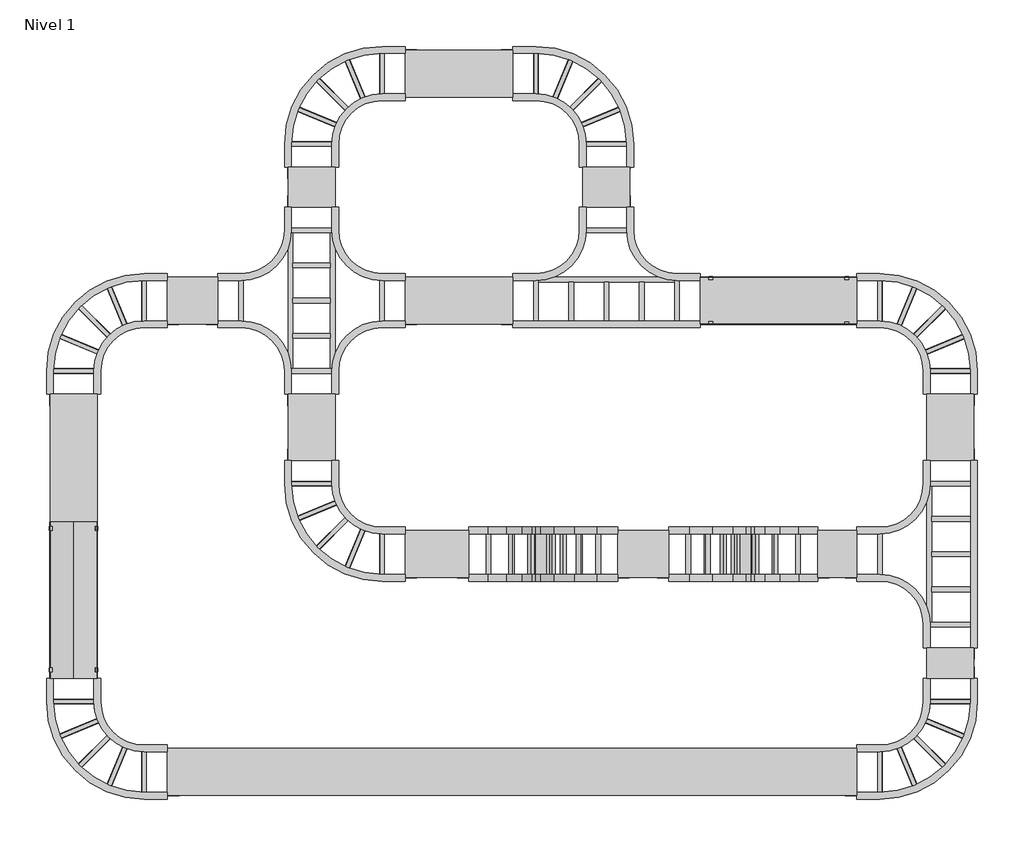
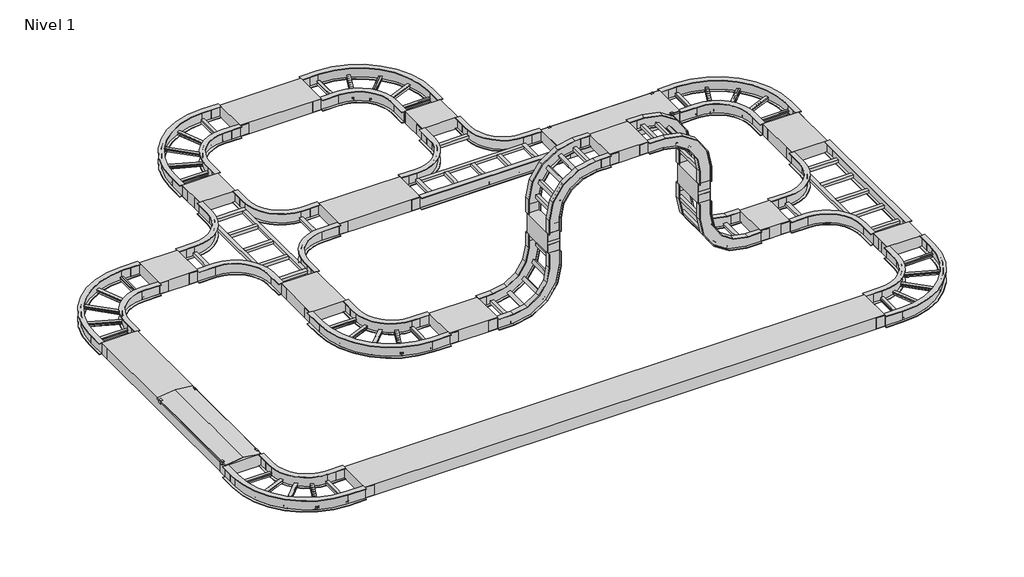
# One storey: 74 proxies, 16 cable carrier segments, 14 cable carrier fittings.
"""IFC4 building model written with IfcOpenShell, lengths in millimetres."""

from ifc_helpers import new_model, si_unit, frame, origin, place, context, project, spatial, polyline, outline, extrude, transform, mapped, element, save
from components import generic_models_fe180117, generic_models_acc7646d, generic_models_1d4e2ffc, generic_models_0f8e1dab, generic_models_6a893dab, cable_carrier_fitting_dc6e4f22, cable_carrier_fitting_e62e78b4, cable_carrier_fitting_8666d8a0, cable_carrier_fitting_13366d08, cable_carrier_fitting_838a4757

model = new_model("IFC4")

# Units and contexts
model_context = context("Model", 3, world=origin())
ifc_project = project(units=[si_unit("LENGTHUNIT", "METRE", prefix="MILLI")], contexts=[model_context])

# Site, building, storey
site = spatial("IfcSite", under=ifc_project)
building = spatial("IfcBuilding", under=site)
storey = spatial("IfcBuildingStorey", under=building, Name="Nivel 1", Elevation=0.0)

# Proxies
placement = place(None, origin())
generic_models_shape = generic_models_fe180117(model_context)
element("IfcBuildingElementProxy", 1, Name="Cable_Ladder_Cover_T2AI_Basortrav : Basortrav T2AI 12 3M", ObjectType="Cable_Ladder_Cover_T2AI_Basortrav : Basortrav T2AI 12 3M", at=placement, inside=storey, context=model_context, shape_type="MappedRepresentation", body=[
    mapped(generic_models_shape, transform((-12044.2216592, -1095.3763721, -147.8359375), x_axis=(-1.0, 0.0, 0.0), y_axis=(0.0, -1.0, 0.0), z_axis=(0.0, 0.0, 1.0))),
])
generic_models_2_shape = generic_models_acc7646d(model_context)
element("IfcBuildingElementProxy", 2, Name="Cable_Ladder_Cover_TI-_Basortrav : Basortrav TI 12 3M", ObjectType="Cable_Ladder_Cover_TI-_Basortrav : Basortrav TI 12 3M", at=placement, inside=storey, context=model_context, shape_type="MappedRepresentation", body=[
    mapped(generic_models_2_shape, transform((-6965.0033308, 340.31893, -147.8359375), x_axis=(0.0, 1.0, 0.0), y_axis=(-1.0, 0.0, 0.0), z_axis=(0.0, 0.0, 1.0))),
])
generic_models_3_shape = generic_models_1d4e2ffc(model_context)
element("IfcBuildingElementProxy", 3, Name="Cable_Ladder_CoverRetainer_PTI_Basortrav : Basortrav PTI", ObjectType="Cable_Ladder_CoverRetainer_PTI_Basortrav : Basortrav PTI", at=placement, inside=storey, context=model_context, shape_type="MappedRepresentation", body=[
    mapped(generic_models_3_shape, transform((-7042.6049566, 184.41893, -146.3359375), x_axis=(0.0, 1.0, 0.0), y_axis=(-1.0, 0.0, 0.0), z_axis=(0.0, 0.0, 1.0))),
])
element("IfcBuildingElementProxy", 4, Name="Cable_Ladder_CoverRetainer_PTI_Basortrav : Basortrav PTI", ObjectType="Cable_Ladder_CoverRetainer_PTI_Basortrav : Basortrav PTI", at=placement, inside=storey, context=model_context, shape_type="MappedRepresentation", body=[
    mapped(generic_models_3_shape, transform((-7017.6049566, 496.21893, -146.3359375), x_axis=(0.0, -1.0, 0.0), y_axis=(1.0, 0.0, 0.0), z_axis=(0.0, 0.0, 1.0))),
])
element("IfcBuildingElementProxy", 5, Name="Cable_Ladder_CoverRetainer_PTI_Basortrav : Basortrav PTI", ObjectType="Cable_Ladder_CoverRetainer_PTI_Basortrav : Basortrav PTI", at=placement, inside=storey, context=model_context, shape_type="MappedRepresentation", body=[
    mapped(generic_models_3_shape, transform((-7924.444309, 184.6914272, -146.3359375), x_axis=(0.0, 1.0, 0.0), y_axis=(-1.0, 0.0, 0.0), z_axis=(0.0, 0.0, 1.0))),
])
element("IfcBuildingElementProxy", 6, Name="Cable_Ladder_CoverRetainer_PTI_Basortrav : Basortrav PTI", ObjectType="Cable_Ladder_CoverRetainer_PTI_Basortrav : Basortrav PTI", at=placement, inside=storey, context=model_context, shape_type="MappedRepresentation", body=[
    mapped(generic_models_3_shape, transform((-7899.444309, 496.4914272, -146.3359375), x_axis=(0.0, -1.0, 0.0), y_axis=(1.0, 0.0, 0.0), z_axis=(0.0, 0.0, 1.0))),
])
generic_models_4_shape = generic_models_0f8e1dab(model_context)
element("IfcBuildingElementProxy", 7, Name="Cable_Ladder_CoverRetainer_PT2AI_Basortrav : Basortrav PT2AI", ObjectType="Cable_Ladder_CoverRetainer_PT2AI_Basortrav : Basortrav PT2AI", at=placement, inside=storey, context=model_context, shape_type="MappedRepresentation", body=[
    mapped(generic_models_4_shape, transform((-11889.3626835, -2068.1201019, -145.1467244), x_axis=(-0.9914448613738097, 0.0, 0.130526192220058), y_axis=(0.0, -1.0000000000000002, 0.0), z_axis=(0.130526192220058, 0.0, 0.9914448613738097))),
])
element("IfcBuildingElementProxy", 8, Name="Cable_Ladder_CoverRetainer_PT2AI_Basortrav : Basortrav PT2AI", ObjectType="Cable_Ladder_CoverRetainer_PT2AI_Basortrav : Basortrav PT2AI", at=placement, inside=storey, context=model_context, shape_type="MappedRepresentation", body=[
    mapped(generic_models_4_shape, transform((-11889.3626835, -1150.3495919, -145.1467244), x_axis=(-0.9914448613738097, 0.0, 0.130526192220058), y_axis=(0.0, -1.0000000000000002, 0.0), z_axis=(0.130526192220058, 0.0, 0.9914448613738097))),
])
element("IfcBuildingElementProxy", 9, Name="Cable_Ladder_CoverRetainer_PT2AI_Basortrav : Basortrav PT2AI", ObjectType="Cable_Ladder_CoverRetainer_PT2AI_Basortrav : Basortrav PT2AI", at=placement, inside=storey, context=model_context, shape_type="MappedRepresentation", body=[
    mapped(generic_models_4_shape, transform((-12199.5261963, -2043.1201019, -145.2053836), x_axis=(0.9914448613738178, 0.0, 0.1305261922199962), y_axis=(0.0, 1.0000000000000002, 0.0), z_axis=(-0.1305261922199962, 0.0, 0.9914448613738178))),
])
element("IfcBuildingElementProxy", 10, Name="Cable_Ladder_CoverRetainer_PT2AI_Basortrav : Basortrav PT2AI", ObjectType="Cable_Ladder_CoverRetainer_PT2AI_Basortrav : Basortrav PT2AI", at=placement, inside=storey, context=model_context, shape_type="MappedRepresentation", body=[
    mapped(generic_models_4_shape, transform((-12199.015176, -1125.3495919, -145.1381065), x_axis=(0.9914448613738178, 0.0, 0.1305261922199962), y_axis=(0.0, 1.0000000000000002, 0.0), z_axis=(-0.1305261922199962, 0.0, 0.9914448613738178))),
])
generic_models_5_shape = generic_models_6a893dab(model_context)
element("IfcBuildingElementProxy", 11, Name="JUI_Juction_H4-Basortrav : Basortrav JUI 4", ObjectType="JUI_Juction_H4-Basortrav : Basortrav JUI 4", at=placement, inside=storey, context=model_context, shape_type="MappedRepresentation", body=[
    mapped(generic_models_5_shape, transform((-11108.4879378, 494.31893, -245.4175781), x_axis=(0.0, -1.0, 0.0), y_axis=(1.0, 0.0, 0.0), z_axis=(0.0, 0.0, 1.0))),
])
element("IfcBuildingElementProxy", 12, Name="JUI_Juction_H4-Basortrav : Basortrav JUI 4", ObjectType="JUI_Juction_H4-Basortrav : Basortrav JUI 4", at=placement, inside=storey, context=model_context, shape_type="MappedRepresentation", body=[
    mapped(generic_models_5_shape, transform((-11108.4879378, 190.31893, -245.4175781), x_axis=(0.0, -1.0, 0.0), y_axis=(1.0, 0.0, 0.0), z_axis=(0.0, 0.0, 1.0))),
])
element("IfcBuildingElementProxy", 13, Name="JUI_Juction_H4-Basortrav : Basortrav JUI 4", ObjectType="JUI_Juction_H4-Basortrav : Basortrav JUI 4", at=placement, inside=storey, context=model_context, shape_type="MappedRepresentation", body=[
    mapped(generic_models_5_shape, transform((-9893.2933876, 186.31893, -245.4175781), x_axis=(0.0, 1.0, 0.0), y_axis=(-1.0, 0.0, 0.0), z_axis=(0.0, 0.0, 1.0))),
])
element("IfcBuildingElementProxy", 14, Name="JUI_Juction_H4-Basortrav : Basortrav JUI 4", ObjectType="JUI_Juction_H4-Basortrav : Basortrav JUI 4", at=placement, inside=storey, context=model_context, shape_type="MappedRepresentation", body=[
    mapped(generic_models_5_shape, transform((-9893.2933876, 490.31893, -245.4175781), x_axis=(0.0, 1.0, 0.0), y_axis=(-1.0, 0.0, 0.0), z_axis=(0.0, 0.0, 1.0))),
])
element("IfcBuildingElementProxy", 15, Name="JUI_Juction_H4-Basortrav : Basortrav JUI 4", ObjectType="JUI_Juction_H4-Basortrav : Basortrav JUI 4", at=placement, inside=storey, context=model_context, shape_type="MappedRepresentation", body=[
    mapped(generic_models_5_shape, transform((-12198.2216592, -267.0058479, -245.4175781), x_axis=(1.0, 0.0, 0.0), y_axis=(0.0, 1.0, 0.0), z_axis=(0.0, 0.0, 1.0))),
])
element("IfcBuildingElementProxy", 16, Name="JUI_Juction_H4-Basortrav : Basortrav JUI 4", ObjectType="JUI_Juction_H4-Basortrav : Basortrav JUI 4", at=placement, inside=storey, context=model_context, shape_type="MappedRepresentation", body=[
    mapped(generic_models_5_shape, transform((-11894.2216592, -267.0058479, -245.4175781), x_axis=(1.0, 0.0, 0.0), y_axis=(0.0, 1.0, 0.0), z_axis=(0.0, 0.0, 1.0))),
])
element("IfcBuildingElementProxy", 17, Name="JUI_Juction_H4-Basortrav : Basortrav JUI 4", ObjectType="JUI_Juction_H4-Basortrav : Basortrav JUI 4", at=placement, inside=storey, context=model_context, shape_type="MappedRepresentation", body=[
    mapped(generic_models_5_shape, transform((-12198.2216592, -2111.7736472, -245.4175781), x_axis=(1.0, 0.0, 0.0), y_axis=(0.0, 1.0, 0.0), z_axis=(0.0, 0.0, 1.0))),
])
element("IfcBuildingElementProxy", 18, Name="JUI_Juction_H4-Basortrav : Basortrav JUI 4", ObjectType="JUI_Juction_H4-Basortrav : Basortrav JUI 4", at=placement, inside=storey, context=model_context, shape_type="MappedRepresentation", body=[
    mapped(generic_models_5_shape, transform((-11894.2216592, -2111.7736472, -245.4175781), x_axis=(1.0, 0.0, 0.0), y_axis=(0.0, 1.0, 0.0), z_axis=(0.0, 0.0, 1.0))),
])
element("IfcBuildingElementProxy", 19, Name="JUI_Juction_H4-Basortrav : Basortrav JUI 4", ObjectType="JUI_Juction_H4-Basortrav : Basortrav JUI 4", at=placement, inside=storey, context=model_context, shape_type="MappedRepresentation", body=[
    mapped(generic_models_5_shape, transform((-10654.8906627, -267.2783451, -245.4175781), x_axis=(1.0, 0.0, 0.0), y_axis=(0.0, 1.0, 0.0), z_axis=(0.0, 0.0, 1.0))),
])
element("IfcBuildingElementProxy", 20, Name="JUI_Juction_H4-Basortrav : Basortrav JUI 4", ObjectType="JUI_Juction_H4-Basortrav : Basortrav JUI 4", at=placement, inside=storey, context=model_context, shape_type="MappedRepresentation", body=[
    mapped(generic_models_5_shape, transform((-10350.8906627, -267.2783451, -245.4175781), x_axis=(1.0, 0.0, 0.0), y_axis=(0.0, 1.0, 0.0), z_axis=(0.0, 0.0, 1.0))),
])
element("IfcBuildingElementProxy", 21, Name="JUI_Juction_H4-Basortrav : Basortrav JUI 4", ObjectType="JUI_Juction_H4-Basortrav : Basortrav JUI 4", at=placement, inside=storey, context=model_context, shape_type="MappedRepresentation", body=[
    mapped(generic_models_5_shape, transform((-10654.8906627, -697.8385635, -245.4175781), x_axis=(1.0, 0.0, 0.0), y_axis=(0.0, 1.0, 0.0), z_axis=(0.0, 0.0, 1.0))),
])
element("IfcBuildingElementProxy", 22, Name="JUI_Juction_H4-Basortrav : Basortrav JUI 4", ObjectType="JUI_Juction_H4-Basortrav : Basortrav JUI 4", at=placement, inside=storey, context=model_context, shape_type="MappedRepresentation", body=[
    mapped(generic_models_5_shape, transform((-10350.8906627, -697.8385635, -245.4175781), x_axis=(1.0, 0.0, 0.0), y_axis=(0.0, 1.0, 0.0), z_axis=(0.0, 0.0, 1.0))),
])
element("IfcBuildingElementProxy", 23, Name="JUI_Juction_H4-Basortrav : Basortrav JUI 4", ObjectType="JUI_Juction_H4-Basortrav : Basortrav JUI 4", at=placement, inside=storey, context=model_context, shape_type="MappedRepresentation", body=[
    mapped(generic_models_5_shape, transform((-10654.8906627, 1206.4783982, -245.4175781), x_axis=(1.0, 0.0, 0.0), y_axis=(0.0, 1.0, 0.0), z_axis=(0.0, 0.0, 1.0))),
])
element("IfcBuildingElementProxy", 24, Name="JUI_Juction_H4-Basortrav : Basortrav JUI 4", ObjectType="JUI_Juction_H4-Basortrav : Basortrav JUI 4", at=placement, inside=storey, context=model_context, shape_type="MappedRepresentation", body=[
    mapped(generic_models_5_shape, transform((-10350.8906627, 1206.4783982, -245.4175781), x_axis=(1.0, 0.0, 0.0), y_axis=(0.0, 1.0, 0.0), z_axis=(0.0, 0.0, 1.0))),
])
element("IfcBuildingElementProxy", 25, Name="JUI_Juction_H4-Basortrav : Basortrav JUI 4", ObjectType="JUI_Juction_H4-Basortrav : Basortrav JUI 4", at=placement, inside=storey, context=model_context, shape_type="MappedRepresentation", body=[
    mapped(generic_models_5_shape, transform((-10654.8906627, 947.1216549, -245.4175781), x_axis=(1.0, 0.0, 0.0), y_axis=(0.0, 1.0, 0.0), z_axis=(0.0, 0.0, 1.0))),
])
element("IfcBuildingElementProxy", 26, Name="JUI_Juction_H4-Basortrav : Basortrav JUI 4", ObjectType="JUI_Juction_H4-Basortrav : Basortrav JUI 4", at=placement, inside=storey, context=model_context, shape_type="MappedRepresentation", body=[
    mapped(generic_models_5_shape, transform((-10350.8906627, 947.1216549, -245.4175781), x_axis=(1.0, 0.0, 0.0), y_axis=(0.0, 1.0, 0.0), z_axis=(0.0, 0.0, 1.0))),
])
element("IfcBuildingElementProxy", 27, Name="JUI_Juction_H4-Basortrav : Basortrav JUI 4", ObjectType="JUI_Juction_H4-Basortrav : Basortrav JUI 4", at=placement, inside=storey, context=model_context, shape_type="MappedRepresentation", body=[
    mapped(generic_models_5_shape, transform((-9893.2933876, 1660.0756733, -245.4175781), x_axis=(0.0, 1.0, 0.0), y_axis=(-1.0, 0.0, 0.0), z_axis=(0.0, 0.0, 1.0))),
])
element("IfcBuildingElementProxy", 28, Name="JUI_Juction_H4-Basortrav : Basortrav JUI 4", ObjectType="JUI_Juction_H4-Basortrav : Basortrav JUI 4", at=placement, inside=storey, context=model_context, shape_type="MappedRepresentation", body=[
    mapped(generic_models_5_shape, transform((-9893.2933876, 1964.0756733, -245.4175781), x_axis=(0.0, 1.0, 0.0), y_axis=(-1.0, 0.0, 0.0), z_axis=(0.0, 0.0, 1.0))),
])
element("IfcBuildingElementProxy", 29, Name="JUI_Juction_H4-Basortrav : Basortrav JUI 4", ObjectType="JUI_Juction_H4-Basortrav : Basortrav JUI 4", at=placement, inside=storey, context=model_context, shape_type="MappedRepresentation", body=[
    mapped(generic_models_5_shape, transform((-9195.1538978, 1660.0756733, -245.4175781), x_axis=(0.0, 1.0, 0.0), y_axis=(-1.0, 0.0, 0.0), z_axis=(0.0, 0.0, 1.0))),
])
element("IfcBuildingElementProxy", 30, Name="JUI_Juction_H4-Basortrav : Basortrav JUI 4", ObjectType="JUI_Juction_H4-Basortrav : Basortrav JUI 4", at=placement, inside=storey, context=model_context, shape_type="MappedRepresentation", body=[
    mapped(generic_models_5_shape, transform((-9195.1538978, 1964.0756733, -245.4175781), x_axis=(0.0, 1.0, 0.0), y_axis=(-1.0, 0.0, 0.0), z_axis=(0.0, 0.0, 1.0))),
])
element("IfcBuildingElementProxy", 31, Name="JUI_Juction_H4-Basortrav : Basortrav JUI 4", ObjectType="JUI_Juction_H4-Basortrav : Basortrav JUI 4", at=placement, inside=storey, context=model_context, shape_type="MappedRepresentation", body=[
    mapped(generic_models_5_shape, transform((-8434.3511729, 948.1887023, -245.4175781), x_axis=(-1.0, 0.0, 0.0), y_axis=(0.0, -1.0, 0.0), z_axis=(0.0, 0.0, 1.0))),
])
element("IfcBuildingElementProxy", 32, Name="JUI_Juction_H4-Basortrav : Basortrav JUI 4", ObjectType="JUI_Juction_H4-Basortrav : Basortrav JUI 4", at=placement, inside=storey, context=model_context, shape_type="MappedRepresentation", body=[
    mapped(generic_models_5_shape, transform((-8738.3511729, 948.1887023, -245.4175781), x_axis=(-1.0, 0.0, 0.0), y_axis=(0.0, -1.0, 0.0), z_axis=(0.0, 0.0, 1.0))),
])
element("IfcBuildingElementProxy", 33, Name="JUI_Juction_H4-Basortrav : Basortrav JUI 4", ObjectType="JUI_Juction_H4-Basortrav : Basortrav JUI 4", at=placement, inside=storey, context=model_context, shape_type="MappedRepresentation", body=[
    mapped(generic_models_5_shape, transform((-8434.3511729, 1273.109072, -245.4175781), x_axis=(-1.0, 0.0, 0.0), y_axis=(0.0, -1.0, 0.0), z_axis=(0.0, 0.0, 1.0))),
])
element("IfcBuildingElementProxy", 34, Name="JUI_Juction_H4-Basortrav : Basortrav JUI 4", ObjectType="JUI_Juction_H4-Basortrav : Basortrav JUI 4", at=placement, inside=storey, context=model_context, shape_type="MappedRepresentation", body=[
    mapped(generic_models_5_shape, transform((-8738.3511729, 1273.109072, -245.4175781), x_axis=(-1.0, 0.0, 0.0), y_axis=(0.0, -1.0, 0.0), z_axis=(0.0, 0.0, 1.0))),
])
element("IfcBuildingElementProxy", 35, Name="JUI_Juction_H4-Basortrav : Basortrav JUI 4", ObjectType="JUI_Juction_H4-Basortrav : Basortrav JUI 4", at=placement, inside=storey, context=model_context, shape_type="MappedRepresentation", body=[
    mapped(generic_models_5_shape, transform((-9195.1538978, 186.31893, -245.4175781), x_axis=(0.0, 1.0, 0.0), y_axis=(-1.0, 0.0, 0.0), z_axis=(0.0, 0.0, 1.0))),
])
element("IfcBuildingElementProxy", 36, Name="JUI_Juction_H4-Basortrav : Basortrav JUI 4", ObjectType="JUI_Juction_H4-Basortrav : Basortrav JUI 4", at=placement, inside=storey, context=model_context, shape_type="MappedRepresentation", body=[
    mapped(generic_models_5_shape, transform((-9195.1538978, 490.31893, -245.4175781), x_axis=(0.0, 1.0, 0.0), y_axis=(-1.0, 0.0, 0.0), z_axis=(0.0, 0.0, 1.0))),
])
element("IfcBuildingElementProxy", 37, Name="JUI_Juction_H4-Basortrav : Basortrav JUI 4", ObjectType="JUI_Juction_H4-Basortrav : Basortrav JUI 4", at=placement, inside=storey, context=model_context, shape_type="MappedRepresentation", body=[
    mapped(generic_models_5_shape, transform((-7219.0673978, -1458.6412884, -245.4175781), x_axis=(0.0, 1.0, 0.0), y_axis=(-1.0, 0.0, 0.0), z_axis=(0.0, 0.0, 1.0))),
])
element("IfcBuildingElementProxy", 38, Name="JUI_Juction_H4-Basortrav : Basortrav JUI 4", ObjectType="JUI_Juction_H4-Basortrav : Basortrav JUI 4", at=placement, inside=storey, context=model_context, shape_type="MappedRepresentation", body=[
    mapped(generic_models_5_shape, transform((-7219.0673978, -1154.6412884, -245.4175781), x_axis=(0.0, 1.0, 0.0), y_axis=(-1.0, 0.0, 0.0), z_axis=(0.0, 0.0, 1.0))),
])
element("IfcBuildingElementProxy", 39, Name="JUI_Juction_H4-Basortrav : Basortrav JUI 4", ObjectType="JUI_Juction_H4-Basortrav : Basortrav JUI 4", at=placement, inside=storey, context=model_context, shape_type="MappedRepresentation", body=[
    mapped(generic_models_5_shape, transform((-6964.6060557, -1458.6412884, -245.4175781), x_axis=(0.0, 1.0, 0.0), y_axis=(-1.0, 0.0, 0.0), z_axis=(0.0, 0.0, 1.0))),
])
element("IfcBuildingElementProxy", 40, Name="JUI_Juction_H4-Basortrav : Basortrav JUI 4", ObjectType="JUI_Juction_H4-Basortrav : Basortrav JUI 4", at=placement, inside=storey, context=model_context, shape_type="MappedRepresentation", body=[
    mapped(generic_models_5_shape, transform((-6964.6060557, -1154.6412884, -245.4175781), x_axis=(0.0, 1.0, 0.0), y_axis=(-1.0, 0.0, 0.0), z_axis=(0.0, 0.0, 1.0))),
])
element("IfcBuildingElementProxy", 41, Name="JUI_Juction_H4-Basortrav : Basortrav JUI 4", ObjectType="JUI_Juction_H4-Basortrav : Basortrav JUI 4", at=placement, inside=storey, context=model_context, shape_type="MappedRepresentation", body=[
    mapped(generic_models_5_shape, transform((-6203.8033308, -1911.4440133, -245.4175781), x_axis=(-1.0, 0.0, 0.0), y_axis=(0.0, -1.0, 0.0), z_axis=(0.0, 0.0, 1.0))),
])
element("IfcBuildingElementProxy", 42, Name="JUI_Juction_H4-Basortrav : Basortrav JUI 4", ObjectType="JUI_Juction_H4-Basortrav : Basortrav JUI 4", at=placement, inside=storey, context=model_context, shape_type="MappedRepresentation", body=[
    mapped(generic_models_5_shape, transform((-6507.8033308, -1911.4440133, -245.4175781), x_axis=(-1.0, 0.0, 0.0), y_axis=(0.0, -1.0, 0.0), z_axis=(0.0, 0.0, 1.0))),
])
element("IfcBuildingElementProxy", 43, Name="JUI_Juction_H4-Basortrav : Basortrav JUI 4", ObjectType="JUI_Juction_H4-Basortrav : Basortrav JUI 4", at=placement, inside=storey, context=model_context, shape_type="MappedRepresentation", body=[
    mapped(generic_models_5_shape, transform((-6203.8033308, -697.0440133, -245.4175781), x_axis=(-1.0, 0.0, 0.0), y_axis=(0.0, -1.0, 0.0), z_axis=(0.0, 0.0, 1.0))),
])
element("IfcBuildingElementProxy", 44, Name="JUI_Juction_H4-Basortrav : Basortrav JUI 4", ObjectType="JUI_Juction_H4-Basortrav : Basortrav JUI 4", at=placement, inside=storey, context=model_context, shape_type="MappedRepresentation", body=[
    mapped(generic_models_5_shape, transform((-6507.8033308, -697.0440133, -245.4175781), x_axis=(-1.0, 0.0, 0.0), y_axis=(0.0, -1.0, 0.0), z_axis=(0.0, 0.0, 1.0))),
])
element("IfcBuildingElementProxy", 45, Name="JUI_Juction_H4-Basortrav : Basortrav JUI 4", ObjectType="JUI_Juction_H4-Basortrav : Basortrav JUI 4", at=placement, inside=storey, context=model_context, shape_type="MappedRepresentation", body=[
    mapped(generic_models_5_shape, transform((-11437.4189343, 494.31893, -245.4175781), x_axis=(0.0, -1.0, 0.0), y_axis=(1.0, 0.0, 0.0), z_axis=(0.0, 0.0, 1.0))),
])
element("IfcBuildingElementProxy", 46, Name="JUI_Juction_H4-Basortrav : Basortrav JUI 4", ObjectType="JUI_Juction_H4-Basortrav : Basortrav JUI 4", at=placement, inside=storey, context=model_context, shape_type="MappedRepresentation", body=[
    mapped(generic_models_5_shape, transform((-11437.4189343, 190.31893, -245.4175781), x_axis=(0.0, -1.0, 0.0), y_axis=(1.0, 0.0, 0.0), z_axis=(0.0, 0.0, 1.0))),
])
element("IfcBuildingElementProxy", 47, Name="JUI_Juction_H4-Basortrav : Basortrav JUI 4", ObjectType="JUI_Juction_H4-Basortrav : Basortrav JUI 4", at=placement, inside=storey, context=model_context, shape_type="MappedRepresentation", body=[
    mapped(generic_models_5_shape, transform((-9479.6673978, -1458.6412884, -245.4175781), x_axis=(0.0, 1.0, 0.0), y_axis=(-1.0, 0.0, 0.0), z_axis=(0.0, 0.0, 1.0))),
])
element("IfcBuildingElementProxy", 48, Name="JUI_Juction_H4-Basortrav : Basortrav JUI 4", ObjectType="JUI_Juction_H4-Basortrav : Basortrav JUI 4", at=placement, inside=storey, context=model_context, shape_type="MappedRepresentation", body=[
    mapped(generic_models_5_shape, transform((-9479.6673978, -1154.6412884, -245.4175781), x_axis=(0.0, 1.0, 0.0), y_axis=(-1.0, 0.0, 0.0), z_axis=(0.0, 0.0, 1.0))),
])
element("IfcBuildingElementProxy", 49, Name="JUI_Juction_H4-Basortrav : Basortrav JUI 4", ObjectType="JUI_Juction_H4-Basortrav : Basortrav JUI 4", at=placement, inside=storey, context=model_context, shape_type="MappedRepresentation", body=[
    mapped(generic_models_5_shape, transform((-9893.2933876, -1458.6412884, -245.4175781), x_axis=(0.0, 1.0, 0.0), y_axis=(-1.0, 0.0, 0.0), z_axis=(0.0, 0.0, 1.0))),
])
element("IfcBuildingElementProxy", 50, Name="JUI_Juction_H4-Basortrav : Basortrav JUI 4", ObjectType="JUI_Juction_H4-Basortrav : Basortrav JUI 4", at=placement, inside=storey, context=model_context, shape_type="MappedRepresentation", body=[
    mapped(generic_models_5_shape, transform((-9893.2933876, -1154.6412884, -245.4175781), x_axis=(0.0, 1.0, 0.0), y_axis=(-1.0, 0.0, 0.0), z_axis=(0.0, 0.0, 1.0))),
])
element("IfcBuildingElementProxy", 51, Name="JUI_Juction_H4-Basortrav : Basortrav JUI 4", ObjectType="JUI_Juction_H4-Basortrav : Basortrav JUI 4", at=placement, inside=storey, context=model_context, shape_type="MappedRepresentation", body=[
    mapped(generic_models_5_shape, transform((-7980.7538978, 186.31893, -245.4175781), x_axis=(0.0, 1.0, 0.0), y_axis=(-1.0, 0.0, 0.0), z_axis=(0.0, 0.0, 1.0))),
])
element("IfcBuildingElementProxy", 52, Name="JUI_Juction_H4-Basortrav : Basortrav JUI 4", ObjectType="JUI_Juction_H4-Basortrav : Basortrav JUI 4", at=placement, inside=storey, context=model_context, shape_type="MappedRepresentation", body=[
    mapped(generic_models_5_shape, transform((-7980.7538978, 490.31893, -245.4175781), x_axis=(0.0, 1.0, 0.0), y_axis=(-1.0, 0.0, 0.0), z_axis=(0.0, 0.0, 1.0))),
])
element("IfcBuildingElementProxy", 53, Name="JUI_Juction_H4-Basortrav : Basortrav JUI 4", ObjectType="JUI_Juction_H4-Basortrav : Basortrav JUI 4", at=placement, inside=storey, context=model_context, shape_type="MappedRepresentation", body=[
    mapped(generic_models_5_shape, transform((-6964.6060557, 186.31893, -245.4175781), x_axis=(0.0, 1.0, 0.0), y_axis=(-1.0, 0.0, 0.0), z_axis=(0.0, 0.0, 1.0))),
])
element("IfcBuildingElementProxy", 54, Name="JUI_Juction_H4-Basortrav : Basortrav JUI 4", ObjectType="JUI_Juction_H4-Basortrav : Basortrav JUI 4", at=placement, inside=storey, context=model_context, shape_type="MappedRepresentation", body=[
    mapped(generic_models_5_shape, transform((-6964.6060557, 490.31893, -245.4175781), x_axis=(0.0, 1.0, 0.0), y_axis=(-1.0, 0.0, 0.0), z_axis=(0.0, 0.0, 1.0))),
])
element("IfcBuildingElementProxy", 55, Name="JUI_Juction_H4-Basortrav : Basortrav JUI 4", ObjectType="JUI_Juction_H4-Basortrav : Basortrav JUI 4", at=placement, inside=storey, context=model_context, shape_type="MappedRepresentation", body=[
    mapped(generic_models_5_shape, transform((-6203.8033308, -266.4837949, -245.4175781), x_axis=(-1.0, 0.0, 0.0), y_axis=(0.0, -1.0, 0.0), z_axis=(0.0, 0.0, 1.0))),
])
element("IfcBuildingElementProxy", 56, Name="JUI_Juction_H4-Basortrav : Basortrav JUI 4", ObjectType="JUI_Juction_H4-Basortrav : Basortrav JUI 4", at=placement, inside=storey, context=model_context, shape_type="MappedRepresentation", body=[
    mapped(generic_models_5_shape, transform((-6507.8033308, -266.4837949, -245.4175781), x_axis=(-1.0, 0.0, 0.0), y_axis=(0.0, -1.0, 0.0), z_axis=(0.0, 0.0, 1.0))),
])
element("IfcBuildingElementProxy", 57, Name="JUI_Juction_H4-Basortrav : Basortrav JUI 4", ObjectType="JUI_Juction_H4-Basortrav : Basortrav JUI 4", at=placement, inside=storey, context=model_context, shape_type="MappedRepresentation", body=[
    mapped(generic_models_5_shape, transform((-6203.8033308, -2110.979097, -245.4175781), x_axis=(-1.0, 0.0, 0.0), y_axis=(0.0, -1.0, 0.0), z_axis=(0.0, 0.0, 1.0))),
])
element("IfcBuildingElementProxy", 58, Name="JUI_Juction_H4-Basortrav : Basortrav JUI 4", ObjectType="JUI_Juction_H4-Basortrav : Basortrav JUI 4", at=placement, inside=storey, context=model_context, shape_type="MappedRepresentation", body=[
    mapped(generic_models_5_shape, transform((-6507.8033308, -2110.979097, -245.4175781), x_axis=(-1.0, 0.0, 0.0), y_axis=(0.0, -1.0, 0.0), z_axis=(0.0, 0.0, 1.0))),
])
element("IfcBuildingElementProxy", 59, Name="JUI_Juction_H4-Basortrav : Basortrav JUI 4", ObjectType="JUI_Juction_H4-Basortrav : Basortrav JUI 4", at=placement, inside=storey, context=model_context, shape_type="MappedRepresentation", body=[
    mapped(generic_models_5_shape, transform((-6965.4006059, -2564.5763721, -245.4175781), x_axis=(0.0, -1.0, 0.0), y_axis=(1.0, 0.0, 0.0), z_axis=(0.0, 0.0, 1.0))),
])
element("IfcBuildingElementProxy", 60, Name="JUI_Juction_H4-Basortrav : Basortrav JUI 4", ObjectType="JUI_Juction_H4-Basortrav : Basortrav JUI 4", at=placement, inside=storey, context=model_context, shape_type="MappedRepresentation", body=[
    mapped(generic_models_5_shape, transform((-6965.4006059, -2868.5763721, -245.4175781), x_axis=(0.0, -1.0, 0.0), y_axis=(1.0, 0.0, 0.0), z_axis=(0.0, 0.0, 1.0))),
])
element("IfcBuildingElementProxy", 61, Name="JUI_Juction_H4-Basortrav : Basortrav JUI 4", ObjectType="JUI_Juction_H4-Basortrav : Basortrav JUI 4", at=placement, inside=storey, context=model_context, shape_type="MappedRepresentation", body=[
    mapped(generic_models_5_shape, transform((-8185.0619481, -1150.6412884, 899.7263375), x_axis=(0.0, -1.0, 0.0), y_axis=(1.0, 0.0, 0.0), z_axis=(0.0, 0.0, 1.0))),
])
element("IfcBuildingElementProxy", 62, Name="JUI_Juction_H4-Basortrav : Basortrav JUI 4", ObjectType="JUI_Juction_H4-Basortrav : Basortrav JUI 4", at=placement, inside=storey, context=model_context, shape_type="MappedRepresentation", body=[
    mapped(generic_models_5_shape, transform((-8185.0619481, -1454.6412884, 899.7263375), x_axis=(0.0, -1.0, 0.0), y_axis=(1.0, 0.0, 0.0), z_axis=(0.0, 0.0, 1.0))),
])
element("IfcBuildingElementProxy", 63, Name="JUI_Juction_H4-Basortrav : Basortrav JUI 4", ObjectType="JUI_Juction_H4-Basortrav : Basortrav JUI 4", at=placement, inside=storey, context=model_context, shape_type="MappedRepresentation", body=[
    mapped(generic_models_5_shape, transform((-8515.2619481, -1150.6412884, 899.7263375), x_axis=(0.0, -1.0, 0.0), y_axis=(1.0, 0.0, 0.0), z_axis=(0.0, 0.0, 1.0))),
])
element("IfcBuildingElementProxy", 64, Name="JUI_Juction_H4-Basortrav : Basortrav JUI 4", ObjectType="JUI_Juction_H4-Basortrav : Basortrav JUI 4", at=placement, inside=storey, context=model_context, shape_type="MappedRepresentation", body=[
    mapped(generic_models_5_shape, transform((-8515.2619481, -1454.6412884, 899.7263375), x_axis=(0.0, -1.0, 0.0), y_axis=(1.0, 0.0, 0.0), z_axis=(0.0, 0.0, 1.0))),
])
element("IfcBuildingElementProxy", 65, Name="JUI_Juction_H4-Basortrav : Basortrav JUI 4", ObjectType="JUI_Juction_H4-Basortrav : Basortrav JUI 4", at=placement, inside=storey, context=model_context, shape_type="MappedRepresentation", body=[
    mapped(generic_models_5_shape, transform((-7748.8463136, -1458.6412884, 283.5667874), x_axis=(0.0, 1.0, 0.0), y_axis=(0.0, 0.0, 1.0), z_axis=(1.0, 0.0, 0.0))),
])
element("IfcBuildingElementProxy", 66, Name="JUI_Juction_H4-Basortrav : Basortrav JUI 4", ObjectType="JUI_Juction_H4-Basortrav : Basortrav JUI 4", at=placement, inside=storey, context=model_context, shape_type="MappedRepresentation", body=[
    mapped(generic_models_5_shape, transform((-7748.8463136, -1154.6412884, 283.5667874), x_axis=(0.0, 1.0, 0.0), y_axis=(0.0, 0.0, 1.0), z_axis=(1.0, 0.0, 0.0))),
])
element("IfcBuildingElementProxy", 67, Name="JUI_Juction_H4-Basortrav : Basortrav JUI 4", ObjectType="JUI_Juction_H4-Basortrav : Basortrav JUI 4", at=placement, inside=storey, context=model_context, shape_type="MappedRepresentation", body=[
    mapped(generic_models_5_shape, transform((-7748.8463136, -1458.6412884, 463.510703), x_axis=(0.0, 1.0, 0.0), y_axis=(0.0, 0.0, 1.0), z_axis=(1.0, 0.0, 0.0))),
])
element("IfcBuildingElementProxy", 68, Name="JUI_Juction_H4-Basortrav : Basortrav JUI 4", ObjectType="JUI_Juction_H4-Basortrav : Basortrav JUI 4", at=placement, inside=storey, context=model_context, shape_type="MappedRepresentation", body=[
    mapped(generic_models_5_shape, transform((-7748.8463136, -1154.6412884, 463.510703), x_axis=(0.0, 1.0, 0.0), y_axis=(0.0, 0.0, 1.0), z_axis=(1.0, 0.0, 0.0))),
])
element("IfcBuildingElementProxy", 69, Name="JUI_Juction_H4-Basortrav : Basortrav JUI 4", ObjectType="JUI_Juction_H4-Basortrav : Basortrav JUI 4", at=placement, inside=storey, context=model_context, shape_type="MappedRepresentation", body=[
    mapped(generic_models_5_shape, transform((-8950.6830323, -1458.6412884, 284.3613376), x_axis=(0.0, 1.0, 0.0), y_axis=(0.0, 0.0, -1.0), z_axis=(-1.0, 0.0, 0.0))),
])
element("IfcBuildingElementProxy", 70, Name="JUI_Juction_H4-Basortrav : Basortrav JUI 4", ObjectType="JUI_Juction_H4-Basortrav : Basortrav JUI 4", at=placement, inside=storey, context=model_context, shape_type="MappedRepresentation", body=[
    mapped(generic_models_5_shape, transform((-8950.6830323, -1154.6412884, 284.3613376), x_axis=(0.0, 1.0, 0.0), y_axis=(0.0, 0.0, -1.0), z_axis=(-1.0, 0.0, 0.0))),
])
element("IfcBuildingElementProxy", 71, Name="JUI_Juction_H4-Basortrav : Basortrav JUI 4", ObjectType="JUI_Juction_H4-Basortrav : Basortrav JUI 4", at=placement, inside=storey, context=model_context, shape_type="MappedRepresentation", body=[
    mapped(generic_models_5_shape, transform((-8950.6830323, -1458.6412884, 464.3052532), x_axis=(0.0, 1.0, 0.0), y_axis=(0.0, 0.0, -1.0), z_axis=(-1.0, 0.0, 0.0))),
])
element("IfcBuildingElementProxy", 72, Name="JUI_Juction_H4-Basortrav : Basortrav JUI 4", ObjectType="JUI_Juction_H4-Basortrav : Basortrav JUI 4", at=placement, inside=storey, context=model_context, shape_type="MappedRepresentation", body=[
    mapped(generic_models_5_shape, transform((-8950.6830323, -1154.6412884, 464.3052532), x_axis=(0.0, 1.0, 0.0), y_axis=(0.0, 0.0, -1.0), z_axis=(-1.0, 0.0, 0.0))),
])
element("IfcBuildingElementProxy", 73, Name="JUI_Juction_H4-Basortrav : Basortrav JUI 4", ObjectType="JUI_Juction_H4-Basortrav : Basortrav JUI 4", at=placement, inside=storey, context=model_context, shape_type="MappedRepresentation", body=[
    mapped(generic_models_5_shape, transform((-11433.5679496, -2564.5763721, -245.4175781), x_axis=(0.0, -1.0, 0.0), y_axis=(1.0, 0.0, 0.0), z_axis=(0.0, 0.0, 1.0))),
])
element("IfcBuildingElementProxy", 74, Name="JUI_Juction_H4-Basortrav : Basortrav JUI 4", ObjectType="JUI_Juction_H4-Basortrav : Basortrav JUI 4", at=placement, inside=storey, context=model_context, shape_type="MappedRepresentation", body=[
    mapped(generic_models_5_shape, transform((-11433.5679496, -2868.5763721, -245.4175781), x_axis=(0.0, -1.0, 0.0), y_axis=(1.0, 0.0, 0.0), z_axis=(0.0, 0.0, 1.0))),
])

# Cable carrier fittings
cable_carrier_fitting_shape = cable_carrier_fitting_dc6e4f22(model_context)
element("IfcCableCarrierFitting", 75, ObjectType="CCI_Vertical_Inside_Bend-Basortrav : Basortrav CCI-12", at=placement, inside=storey, context=model_context, shape_type="MappedRepresentation", body=[
    mapped(cable_carrier_fitting_shape, transform((-8997.464673, -1304.6412884, -198.6359375), x_axis=(1.0, 0.0, 0.0), y_axis=(0.0, 0.0, 1.0), z_axis=(0.0, -1.0, 0.0))),
])
element("IfcCableCarrierFitting", 76, ObjectType="CCI_Vertical_Inside_Bend-Basortrav : Basortrav CCI-12", at=placement, inside=storey, context=model_context, shape_type="MappedRepresentation", body=[
    mapped(cable_carrier_fitting_shape, transform((-7702.064673, -1304.6412884, -198.6359375), x_axis=(0.0, 0.0, -1.0), y_axis=(1.0, 0.0, 0.0), z_axis=(0.0, -1.0, 0.0))),
])
cable_carrier_fitting_2_shape = cable_carrier_fitting_e62e78b4(model_context)
element("IfcCableCarrierFitting", 77, ObjectType="CXI_Vertical_Outside_Bend-Basortrav : Basortrav CXI-12", at=placement, inside=storey, context=model_context, shape_type="MappedRepresentation", body=[
    mapped(cable_carrier_fitting_2_shape, transform((-8997.464673, -1304.6412884, 946.5079781), x_axis=(0.0, 0.0, 1.0), y_axis=(1.0, 0.0, 0.0), z_axis=(0.0, 1.0, 0.0))),
])
element("IfcCableCarrierFitting", 78, ObjectType="CXI_Vertical_Outside_Bend-Basortrav : Basortrav CXI-12", at=placement, inside=storey, context=model_context, shape_type="MappedRepresentation", body=[
    mapped(cable_carrier_fitting_2_shape, transform((-7702.064673, -1304.6412884, 946.5079781), x_axis=(1.0, 0.0, 0.0), y_axis=(0.0, 0.0, -1.0), z_axis=(0.0, 1.0, 0.0))),
])
cable_carrier_fitting_3_shape = cable_carrier_fitting_8666d8a0(model_context)
element("IfcCableCarrierFitting", 79, ObjectType="CPI_Horizontal_Bend-Basortrav : Basortrav CPI-12", at=placement, inside=storey, context=model_context, shape_type="MappedRepresentation", body=[
    mapped(cable_carrier_fitting_3_shape, transform((-12044.2216592, 340.5914272, -198.6359375), x_axis=(-1.0, 0.0, 0.0), y_axis=(0.0, -1.0, 0.0), z_axis=(0.0, 0.0, 1.0))),
])
element("IfcCableCarrierFitting", 80, ObjectType="CPI_Horizontal_Bend-Basortrav : Basortrav CPI-12", at=placement, inside=storey, context=model_context, shape_type="MappedRepresentation", body=[
    mapped(cable_carrier_fitting_3_shape, transform((-6357.8033308, 340.31893, -198.6359375), x_axis=(0.0, 1.0, 0.0), y_axis=(-1.0, 0.0, 0.0), z_axis=(0.0, 0.0, 1.0))),
])
element("IfcCableCarrierFitting", 81, ObjectType="CPI_Horizontal_Bend-Basortrav : Basortrav CPI-12", at=placement, inside=storey, context=model_context, shape_type="MappedRepresentation", body=[
    mapped(cable_carrier_fitting_3_shape, transform((-6357.8033308, -2718.5763721, -198.6359375), x_axis=(1.0, 0.0, 0.0), y_axis=(0.0, 1.0, 0.0), z_axis=(0.0, 0.0, 1.0))),
])
element("IfcCableCarrierFitting", 82, ObjectType="CPI_Horizontal_Bend-Basortrav : Basortrav CPI-12", at=placement, inside=storey, context=model_context, shape_type="MappedRepresentation", body=[
    mapped(cable_carrier_fitting_3_shape, transform((-10500.8906627, 1814.0756733, -198.6359375), x_axis=(-1.0, 0.0, 0.0), y_axis=(0.0, -1.0, 0.0), z_axis=(0.0, 0.0, 1.0))),
])
element("IfcCableCarrierFitting", 83, ObjectType="CPI_Horizontal_Bend-Basortrav : Basortrav CPI-12", at=placement, inside=storey, context=model_context, shape_type="MappedRepresentation", body=[
    mapped(cable_carrier_fitting_3_shape, transform((-8588.3511729, 1814.0756733, -198.6359375), x_axis=(0.0, 1.0, 0.0), y_axis=(-1.0, 0.0, 0.0), z_axis=(0.0, 0.0, 1.0))),
])
element("IfcCableCarrierFitting", 84, ObjectType="CPI_Horizontal_Bend-Basortrav : Basortrav CPI-12", at=placement, inside=storey, context=model_context, shape_type="MappedRepresentation", body=[
    mapped(cable_carrier_fitting_3_shape, transform((-10500.8906627, -1304.6412884, -198.6359375), x_axis=(0.0, -1.0, 0.0), y_axis=(1.0, 0.0, 0.0), z_axis=(0.0, 0.0, 1.0))),
])
element("IfcCableCarrierFitting", 85, ObjectType="CPI_Horizontal_Bend-Basortrav : Basortrav CPI-12", at=placement, inside=storey, context=model_context, shape_type="MappedRepresentation", body=[
    mapped(cable_carrier_fitting_3_shape, transform((-12044.2216592, -2718.5763721, -198.6359375), x_axis=(0.0, -1.0, 0.0), y_axis=(1.0, 0.0, 0.0), z_axis=(0.0, 0.0, 1.0))),
])
cable_carrier_fitting_4_shape = cable_carrier_fitting_13366d08(model_context)
element("IfcCableCarrierFitting", 86, ObjectType="CRI_Horizontal Cross-Over-Basortrav : Basortrav CRI-12", at=placement, inside=storey, context=model_context, shape_type="MappedRepresentation", body=[
    mapped(cable_carrier_fitting_4_shape, transform((-10500.8906627, 340.31893, -198.6359375), x_axis=(0.0, 1.0, 0.0), y_axis=(-1.0, 0.0, 0.0), z_axis=(0.0, 0.0, 1.0))),
])
cable_carrier_fitting_5_shape = cable_carrier_fitting_838a4757(model_context)
element("IfcCableCarrierFitting", 87, ObjectType="TEI_Horizontal Tee-Basortrav : Basortrav TEI-12", at=placement, inside=storey, context=model_context, shape_type="MappedRepresentation", body=[
    mapped(cable_carrier_fitting_5_shape, transform((-8588.3511729, 340.31893, -198.6359375), x_axis=(-1.0, 0.0, 0.0), y_axis=(0.0, -1.0, 0.0), z_axis=(0.0, 0.0, 1.0))),
])
element("IfcCableCarrierFitting", 88, ObjectType="TEI_Horizontal Tee-Basortrav : Basortrav TEI-12", at=placement, inside=storey, context=model_context, shape_type="MappedRepresentation", body=[
    mapped(cable_carrier_fitting_5_shape, transform((-6357.8033308, -1304.6412884, -198.6359375), x_axis=(0.0, -1.0, 0.0), y_axis=(1.0, 0.0, 0.0), z_axis=(0.0, 0.0, 1.0))),
])

# Cable carrier segments
element("IfcCableCarrierSegment", 89, ObjectType="Basortrav IL-9", at=placement, inside=storey, context=model_context, shape_type="SweptSolid", body=[
    extrude(outline(polyline([(-11891.8216592, -2111.3763721), (-12196.6216592, -2111.3763721), (-12196.6216592, -266.6085728), (-11891.8216592, -266.6085728), (-11891.8216592, -2111.3763721)])), frame((0.0, 0.0, -249.4359375), z_axis=(0.0, 0.0, 1.0), x_axis=(1.0, 0.0, 0.0)), (0.0, 0.0, 1.0), 101.6),
])
element("IfcCableCarrierSegment", 90, ObjectType="Basortrav IL-9", at=placement, inside=storey, context=model_context, shape_type="SweptSolid", body=[
    extrude(outline(polyline([(-7981.1511729, 187.91893), (-7981.1511729, 492.71893), (-6965.0033308, 492.71893), (-6965.0033308, 187.91893), (-7981.1511729, 187.91893)])), frame((0.0, 0.0, -249.4359375), z_axis=(0.0, 0.0, 1.0), x_axis=(1.0, 0.0, 0.0)), (0.0, 0.0, 1.0), 101.6),
])
element("IfcCableCarrierSegment", 91, ObjectType="Basortrav IL-9", at=placement, inside=storey, context=model_context, shape_type="SweptSolid", body=[
    extrude(outline(polyline([(-6510.2033308, -1911.8412884), (-6205.4033308, -1911.8412884), (-6205.4033308, -2111.3763721), (-6510.2033308, -2111.3763721), (-6510.2033308, -1911.8412884)])), frame((0.0, 0.0, -249.4359375), z_axis=(0.0, 0.0, 1.0), x_axis=(1.0, 0.0, 0.0)), (0.0, 0.0, 1.0), 101.6),
])
element("IfcCableCarrierSegment", 92, ObjectType="Basortrav IL-9", at=placement, inside=storey, context=model_context, shape_type="SweptSolid", body=[
    extrude(outline(polyline([(-10348.4906627, 947.51893), (-10653.2906627, 947.51893), (-10653.2906627, 1206.8756733), (-10348.4906627, 1206.8756733), (-10348.4906627, 947.51893)])), frame((0.0, 0.0, -249.4359375), z_axis=(0.0, 0.0, 1.0), x_axis=(1.0, 0.0, 0.0)), (0.0, 0.0, 1.0), 101.6),
])
element("IfcCableCarrierSegment", 93, ObjectType="Basortrav IL-9", at=placement, inside=storey, context=model_context, shape_type="SweptSolid", body=[
    extrude(outline(polyline([(-10653.2906627, -266.88107), (-10348.4906627, -266.88107), (-10348.4906627, -697.4412884), (-10653.2906627, -697.4412884), (-10653.2906627, -266.88107)])), frame((0.0, 0.0, -249.4359375), z_axis=(0.0, 0.0, 1.0), x_axis=(1.0, 0.0, 0.0)), (0.0, 0.0, 1.0), 101.6),
])
element("IfcCableCarrierSegment", 94, ObjectType="Basortrav IL-9", at=placement, inside=storey, context=model_context, shape_type="SweptSolid", body=[
    extrude(outline(polyline([(-11437.0216592, 187.91893), (-11437.0216592, 492.71893), (-11108.0906627, 492.71893), (-11108.0906627, 187.91893), (-11437.0216592, 187.91893)])), frame((0.0, 0.0, -249.4359375), z_axis=(0.0, 0.0, 1.0), x_axis=(1.0, 0.0, 0.0)), (0.0, 0.0, 1.0), 101.6),
])
element("IfcCableCarrierSegment", 95, ObjectType="Basortrav IL-6", at=placement, inside=storey, context=model_context, shape_type="SweptSolid", body=[
    extrude(outline(polyline([(-9893.6906627, 1661.6756733), (-9893.6906627, 1966.4756733), (-9195.5511729, 1966.4756733), (-9195.5511729, 1661.6756733), (-9893.6906627, 1661.6756733)])), frame((0.0, 0.0, -249.4359375), z_axis=(0.0, 0.0, 1.0), x_axis=(1.0, 0.0, 0.0)), (0.0, 0.0, 1.0), 101.6),
])
element("IfcCableCarrierSegment", 96, ObjectType="Basortrav IL-9", at=placement, inside=storey, context=model_context, shape_type="SweptSolid", body=[
    extrude(outline(polyline([(-8435.9511729, 947.51893), (-8740.7511729, 947.51893), (-8740.7511729, 1206.8756733), (-8435.9511729, 1206.8756733), (-8435.9511729, 947.51893)])), frame((0.0, 0.0, -249.4359375), z_axis=(0.0, 0.0, 1.0), x_axis=(1.0, 0.0, 0.0)), (0.0, 0.0, 1.0), 101.6),
])
element("IfcCableCarrierSegment", 97, ObjectType="Basortrav IL-9", at=placement, inside=storey, context=model_context, shape_type="SweptSolid", body=[
    extrude(outline(polyline([(-9893.6906627, 187.91893), (-9893.6906627, 492.71893), (-9195.5511729, 492.71893), (-9195.5511729, 187.91893), (-9893.6906627, 187.91893)])), frame((0.0, 0.0, -249.4359375), z_axis=(0.0, 0.0, 1.0), x_axis=(1.0, 0.0, 0.0)), (0.0, 0.0, 1.0), 101.6),
])
element("IfcCableCarrierSegment", 98, ObjectType="Basortrav IL-9", at=placement, inside=storey, context=model_context, shape_type="SweptSolid", body=[
    extrude(outline(polyline([(-8946.664673, -1457.0412884), (-9048.264673, -1457.0412884), (-9048.264673, -1152.2412884), (-8946.664673, -1152.2412884), (-8946.664673, -1457.0412884)])), frame((0.0, 0.0, 283.9640625), z_axis=(0.0, 0.0, 1.0), x_axis=(1.0, 0.0, 0.0)), (0.0, 0.0, 1.0), 179.9439156),
])
element("IfcCableCarrierSegment", 99, ObjectType="Basortrav IL-9", at=placement, inside=storey, context=model_context, shape_type="SweptSolid", body=[
    extrude(outline(polyline([(-8514.864673, -1457.0412884), (-8514.864673, -1152.2412884), (-8184.664673, -1152.2412884), (-8184.664673, -1457.0412884), (-8514.864673, -1457.0412884)])), frame((0.0, 0.0, 895.7079781), z_axis=(0.0, 0.0, 1.0), x_axis=(1.0, 0.0, 0.0)), (0.0, 0.0, 1.0), 101.6),
])
element("IfcCableCarrierSegment", 100, ObjectType="Basortrav IL-9", at=placement, inside=storey, context=model_context, shape_type="SweptSolid", body=[
    extrude(outline(polyline([(-7752.864673, -1457.0412884), (-7752.864673, -1152.2412884), (-7651.264673, -1152.2412884), (-7651.264673, -1457.0412884), (-7752.864673, -1457.0412884)])), frame((0.0, 0.0, 283.9640625), z_axis=(0.0, 0.0, 1.0), x_axis=(1.0, 0.0, 0.0)), (0.0, 0.0, 1.0), 179.9439156),
])
element("IfcCableCarrierSegment", 101, ObjectType="Basortrav IL-9", at=placement, inside=storey, context=model_context, shape_type="SweptSolid", body=[
    extrude(outline(polyline([(-7219.464673, -1457.0412884), (-7219.464673, -1152.2412884), (-6965.0033308, -1152.2412884), (-6965.0033308, -1457.0412884), (-7219.464673, -1457.0412884)])), frame((0.0, 0.0, -249.4359375), z_axis=(0.0, 0.0, 1.0), x_axis=(1.0, 0.0, 0.0)), (0.0, 0.0, 1.0), 101.6),
])
element("IfcCableCarrierSegment", 102, ObjectType="Basortrav IL-9", at=placement, inside=storey, context=model_context, shape_type="SweptSolid", body=[
    extrude(outline(polyline([(-9480.064673, -1152.2412884), (-9480.064673, -1457.0412884), (-9893.6906627, -1457.0412884), (-9893.6906627, -1152.2412884), (-9480.064673, -1152.2412884)])), frame((0.0, 0.0, -249.4359375), z_axis=(0.0, 0.0, 1.0), x_axis=(1.0, 0.0, 0.0)), (0.0, 0.0, 1.0), 101.6),
])
element("IfcCableCarrierSegment", 103, ObjectType="Basortrav IL-9", at=placement, inside=storey, context=model_context, shape_type="SweptSolid", body=[
    extrude(outline(polyline([(-6510.2033308, -266.88107), (-6205.4033308, -266.88107), (-6205.4033308, -697.4412884), (-6510.2033308, -697.4412884), (-6510.2033308, -266.88107)])), frame((0.0, 0.0, -249.4359375), z_axis=(0.0, 0.0, 1.0), x_axis=(1.0, 0.0, 0.0)), (0.0, 0.0, 1.0), 101.6),
])
element("IfcCableCarrierSegment", 104, ObjectType="Basortrav IL-12", at=placement, inside=storey, context=model_context, shape_type="SweptSolid", body=[
    extrude(outline(polyline([(-6965.0033308, -2566.1763721), (-6965.0033308, -2870.9763721), (-11437.0216592, -2870.9763721), (-11437.0216592, -2566.1763721), (-6965.0033308, -2566.1763721)])), frame((0.0, 0.0, -249.4359375), z_axis=(0.0, 0.0, 1.0), x_axis=(1.0, 0.0, 0.0)), (0.0, 0.0, 1.0), 101.6),
])

save(model, "model.ifc")
